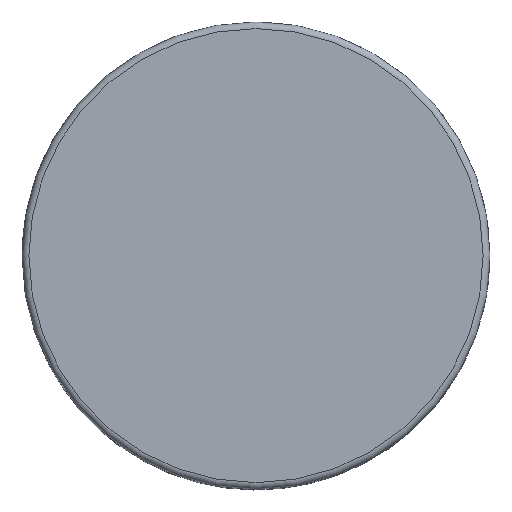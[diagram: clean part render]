
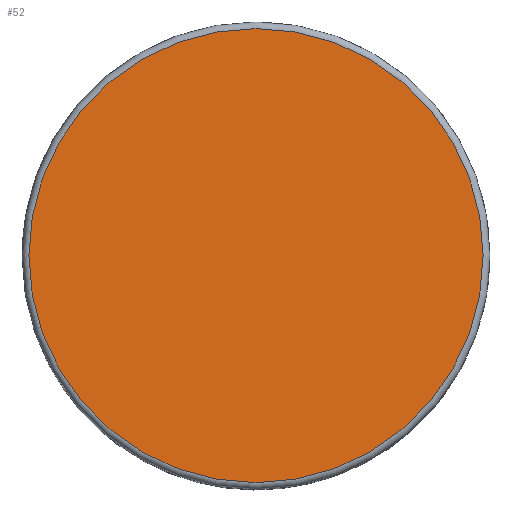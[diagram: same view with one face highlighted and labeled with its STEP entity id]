
A CAD part, top view. The second image highlights one B-rep face of the part: STEP entity #52.
In plain terms, the highlighted planar face has unit normal (0, 0.028, 1).
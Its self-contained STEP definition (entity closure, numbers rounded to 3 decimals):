
#20=PLANE('',#73);
#22=FACE_OUTER_BOUND('',#26,.T.);
#26=EDGE_LOOP('',(#44));
#29=CIRCLE('',#70,10.031);
#32=VERTEX_POINT('',#95);
#35=EDGE_CURVE('',#32,#32,#29,.T.);
#44=ORIENTED_EDGE('',*,*,#35,.F.);
#52=ADVANCED_FACE('',(#22),#20,.T.);
#70=AXIS2_PLACEMENT_3D('',#96,#80,#81);
#73=AXIS2_PLACEMENT_3D('',#100,#86,#87);
#80=DIRECTION('center_axis',(0.,-0.028,-1.));
#81=DIRECTION('ref_axis',(1.,0.,0.));
#86=DIRECTION('center_axis',(0.,0.028,1.));
#87=DIRECTION('ref_axis',(1.,0.,0.));
#95=CARTESIAN_POINT('',(13577.,10409.543,-890.276));
#96=CARTESIAN_POINT('Origin',(13587.031,10409.543,-890.276));
#100=CARTESIAN_POINT('Origin',(13600.806,10881.602,-903.511));
